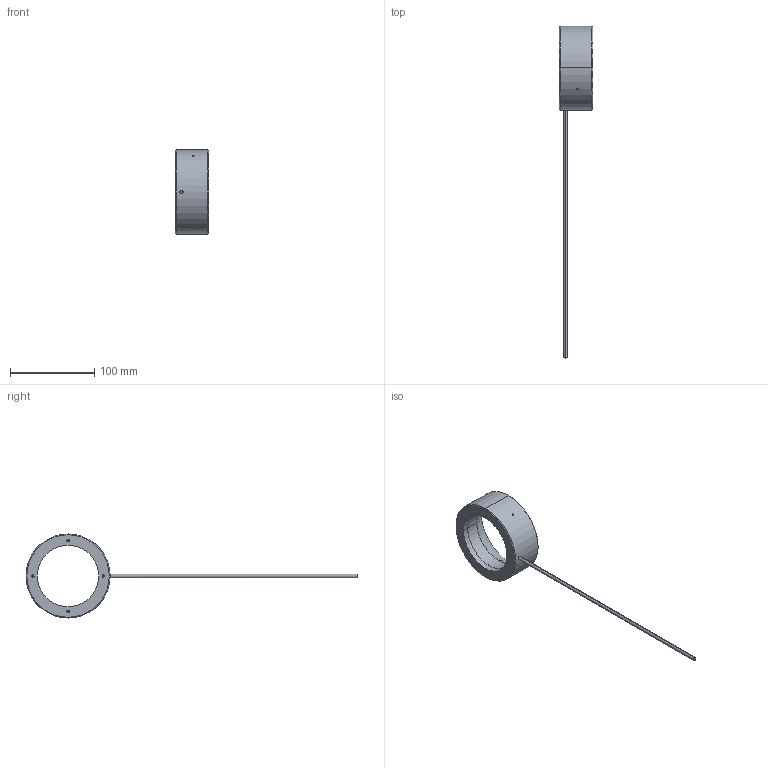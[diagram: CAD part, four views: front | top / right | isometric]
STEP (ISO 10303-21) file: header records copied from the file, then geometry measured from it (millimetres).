
FILE_DESCRIPTION (( 'STEP AP214' ), '1' );
FILE_NAME ('CV-DR-100X73#20140610.STEP', '2014-06-10T08:52:18', ( '' ), ( '' ), 'SwSTEP 2.0', 'SolidWorks 2011', '' );
FILE_SCHEMA (( 'AUTOMOTIVE_DESIGN' ));
Length unit declared in the file: millimetre
Products named in the file (1): CV-DR-100X73#20140610
Bounding box: 40 x 395 x 100 mm (x, y, z)
Volume: 126418.4 mm3; surface area: 31534.7 mm2
Topology: 1 solids, 1 shells, 91 faces, 212 edges, 136 vertices
Faces by surface type: plane 38, cylinder 27, cone 26
Entity records: 3716 total; most frequent: CARTESIAN_POINT 588, DIRECTION 470, ORIENTED_EDGE 424, EDGE_CURVE 212, AXIS2_PLACEMENT_3D 174, VERTEX_POINT 136, VECTOR 122, LINE 122
